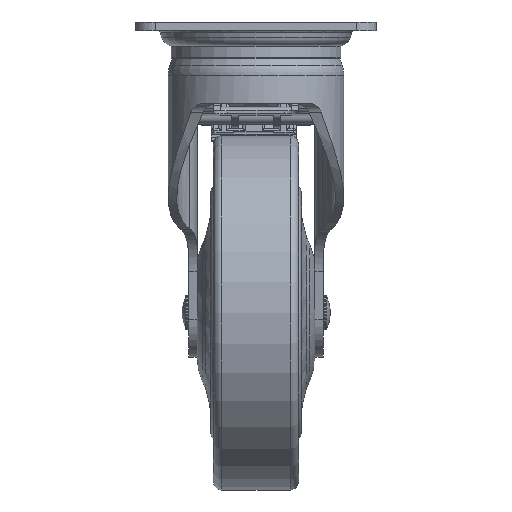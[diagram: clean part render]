
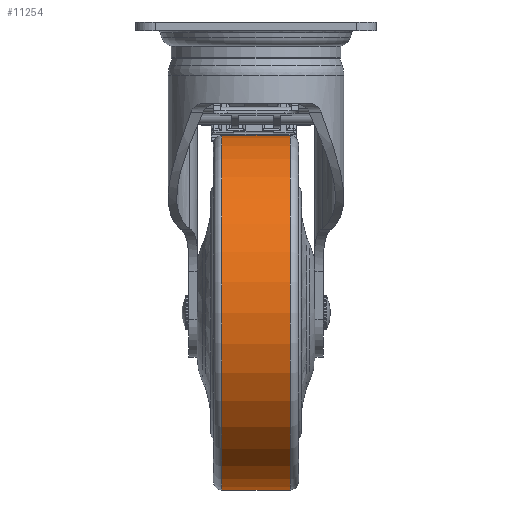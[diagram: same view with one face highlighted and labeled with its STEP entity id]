
A CAD part, left-side view. The second image highlights one B-rep face of the part: STEP entity #11254.
In plain terms, the highlighted cylindrical face has radius 62.499 mm (diameter 124.998 mm), a full revolution.
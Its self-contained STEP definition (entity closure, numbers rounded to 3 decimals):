
#11223=CARTESIAN_POINT('',(141.051,301.064,-157.599));
#11224=VERTEX_POINT('',#11223);
#11225=CARTESIAN_POINT('',(141.051,301.064,-95.1));
#11226=DIRECTION('',(0.0,-1.0,0.0));
#11227=DIRECTION('',(0.0,0.0,1.0));
#11228=AXIS2_PLACEMENT_3D('',#11225,#11226,#11227);
#11229=CIRCLE('',#11228,62.499);
#11230=EDGE_CURVE('',#11224,#11224,#11229,.T.);
#11235=CARTESIAN_POINT('',(141.051,313.064,-95.1));
#11236=DIRECTION('',(0.0,-1.0,0.0));
#11237=DIRECTION('',(0.0,0.0,1.0));
#11238=AXIS2_PLACEMENT_3D('',#11235,#11236,#11237);
#11239=CYLINDRICAL_SURFACE('',#11238,62.499);
#11240=ORIENTED_EDGE('',*,*,#11230,.F.);
#11241=EDGE_LOOP('',(#11240));
#11242=FACE_OUTER_BOUND('',#11241,.T.);
#11243=CARTESIAN_POINT('',(141.051,325.064,-157.599));
#11244=VERTEX_POINT('',#11243);
#11245=CARTESIAN_POINT('',(141.051,325.064,-95.1));
#11246=DIRECTION('',(0.0,-1.0,0.0));
#11247=DIRECTION('',(0.0,0.0,1.0));
#11248=AXIS2_PLACEMENT_3D('',#11245,#11246,#11247);
#11249=CIRCLE('',#11248,62.499);
#11250=EDGE_CURVE('',#11244,#11244,#11249,.T.);
#11251=ORIENTED_EDGE('',*,*,#11250,.T.);
#11252=EDGE_LOOP('',(#11251));
#11253=FACE_BOUND('',#11252,.T.);
#11254=ADVANCED_FACE('',(#11242,#11253),#11239,.T.);
